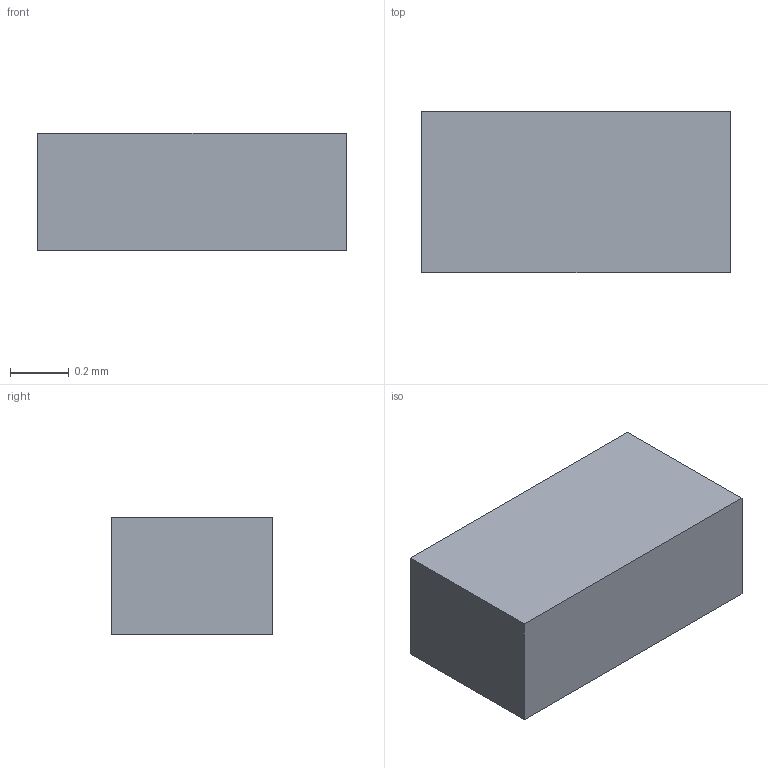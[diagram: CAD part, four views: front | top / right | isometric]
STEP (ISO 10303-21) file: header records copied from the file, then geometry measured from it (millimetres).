
FILE_DESCRIPTION(('Open CASCADE Model'),'2;1');
FILE_NAME('Open CASCADE Shape Model','2026-09-17T14:57:39',('Author'),( 'Open CASCADE'),'Open CASCADE STEP processor 7.8','Open CASCADE 7.8' ,'Unknown');
FILE_SCHEMA(('AUTOMOTIVE_DESIGN { 1 0 10303 214 1 1 1 1 }'));
Length unit declared in the file: millimetre
Products named in the file (1): Open CASCADE STEP translator 7.8 29
Bounding box: 1.05 x 0.55 x 0.4 mm (x, y, z)
Volume: 0.2 mm3; surface area: 2.4 mm2
Topology: 1 solids, 1 shells, 6 faces, 12 edges, 8 vertices
Faces by surface type: plane 6
Entity records: 322 total; most frequent: CARTESIAN_POINT 51, DIRECTION 50, LINE 36, VECTOR 36, ORIENTED_EDGE 24, PCURVE 24, DEFINITIONAL_REPRESENTATION 24, EDGE_CURVE 12
